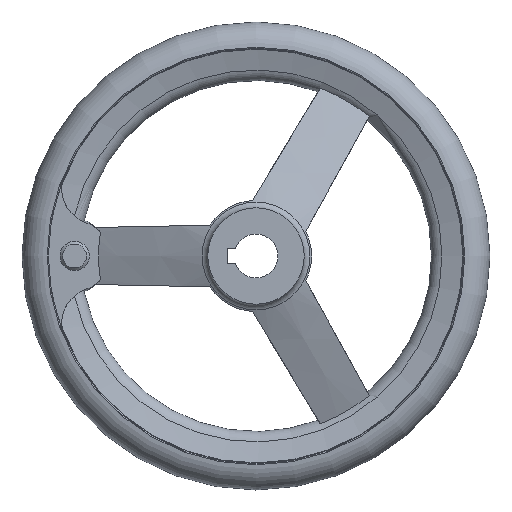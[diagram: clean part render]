
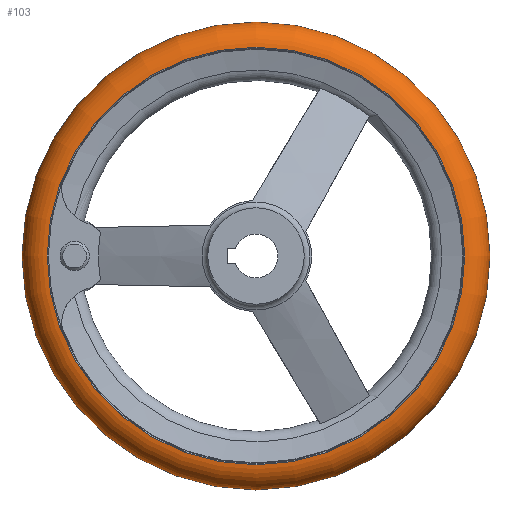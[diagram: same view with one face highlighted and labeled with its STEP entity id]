
A CAD part, left-side view. The second image highlights one B-rep face of the part: STEP entity #103.
In plain terms, the highlighted toroidal (fillet/blend) face has major radius 70.992 mm and minor radius 9.008 mm.
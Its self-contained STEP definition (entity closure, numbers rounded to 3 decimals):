
#103 = ADVANCED_FACE( '', ( #193, #194, #195 ), #196, .T. );
#193 = FACE_BOUND( '', #313, .T. );
#194 = FACE_OUTER_BOUND( '', #314, .T. );
#195 = FACE_OUTER_BOUND( '', #315, .T. );
#196 = TOROIDAL_SURFACE( '', #316, 70.992, 9.008 );
#313 = VERTEX_LOOP( '', #633 );
#314 = EDGE_LOOP( '', ( #634 ) );
#315 = EDGE_LOOP( '', ( #635 ) );
#316 = AXIS2_PLACEMENT_3D( '', #636, #637, #638 );
#633 = VERTEX_POINT( '', #844 );
#634 = ORIENTED_EDGE( '', *, *, #843, .T. );
#635 = ORIENTED_EDGE( '', *, *, #837, .F. );
#636 = CARTESIAN_POINT( '', ( 31., 0., 0. ) );
#637 = DIRECTION( '', ( 1., 0., 0. ) );
#638 = DIRECTION( '', ( 0., 1., 0. ) );
#837 = EDGE_CURVE( '', #1009, #1009, #1010, .T. );
#843 = EDGE_CURVE( '', #1020, #1020, #1021, .T. );
#844 = CARTESIAN_POINT( '', ( 31., 80., 0. ) );
#1009 = VERTEX_POINT( '', #1585 );
#1010 = CIRCLE( '', #1586, 71.375 );
#1020 = VERTEX_POINT( '', #1596 );
#1021 = CIRCLE( '', #1597, 71.375 );
#1585 = CARTESIAN_POINT( '', ( 40., 71.375, 0. ) );
#1586 = AXIS2_PLACEMENT_3D( '', #1737, #1738, #1739 );
#1596 = CARTESIAN_POINT( '', ( 22., 71.375, 0. ) );
#1597 = AXIS2_PLACEMENT_3D( '', #1755, #1756, #1757 );
#1737 = CARTESIAN_POINT( '', ( 40., 0., 0. ) );
#1738 = DIRECTION( '', ( 1., 0., 0. ) );
#1739 = DIRECTION( '', ( 0., 1., 0. ) );
#1755 = CARTESIAN_POINT( '', ( 22., 0., 0. ) );
#1756 = DIRECTION( '', ( 1., 0., 0. ) );
#1757 = DIRECTION( '', ( 0., 1., 0. ) );
